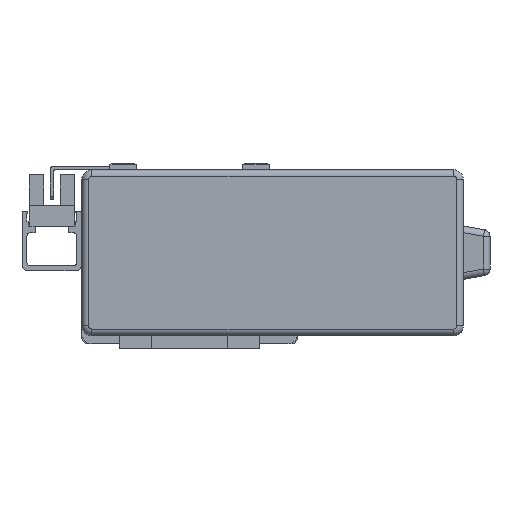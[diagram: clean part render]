
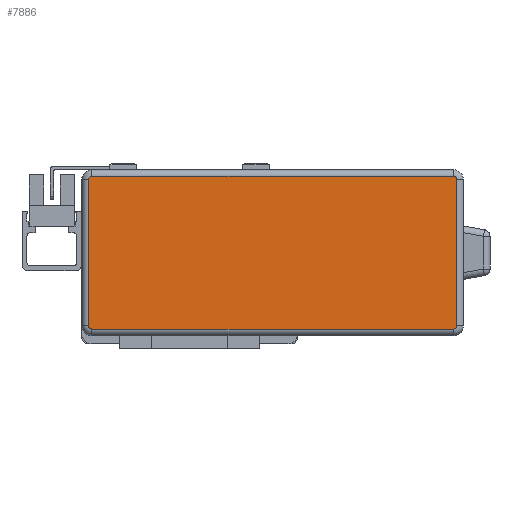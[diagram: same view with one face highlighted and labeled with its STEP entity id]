
A CAD part, left-side view. The second image highlights one B-rep face of the part: STEP entity #7886.
In plain terms, the highlighted planar face has unit normal (-1, 0, 0) as drawn and (0, 0, 1) by its records, which use the part's own axes.
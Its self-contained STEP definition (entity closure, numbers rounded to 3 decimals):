
#60 = DIRECTION ( 'NONE',  ( 0., 1., 0. ) ) ;
#329 = CARTESIAN_POINT ( 'NONE',  ( -55.5, 22., 40. ) ) ;
#679 = CARTESIAN_POINT ( 'NONE',  ( 54.5, -23., 40. ) ) ;
#751 = DIRECTION ( 'NONE',  ( -1., 0., 0. ) ) ;
#810 = VECTOR ( 'NONE', #2388, 1000. ) ;
#843 = ORIENTED_EDGE ( 'NONE', *, *, #21857, .T. ) ;
#1141 = EDGE_CURVE ( 'NONE', #10058, #25977, #4526, .T. ) ;
#1264 = VERTEX_POINT ( 'NONE', #329 ) ;
#1670 = CARTESIAN_POINT ( 'NONE',  ( 0., -23., 40. ) ) ;
#2032 = CARTESIAN_POINT ( 'NONE',  ( -54.5, -22., 40. ) ) ;
#2117 = LINE ( 'NONE', #14459, #8875 ) ;
#2388 = DIRECTION ( 'NONE',  ( -1., 0., 0. ) ) ;
#2506 = VERTEX_POINT ( 'NONE', #10891 ) ;
#2767 = CARTESIAN_POINT ( 'NONE',  ( 54.5, 23., 40. ) ) ;
#3574 = EDGE_CURVE ( 'NONE', #9112, #5896, #4401, .T. ) ;
#3730 = CARTESIAN_POINT ( 'NONE',  ( -54.5, -23., 40. ) ) ;
#4099 = DIRECTION ( 'NONE',  ( -1., 0., 0. ) ) ;
#4274 = AXIS2_PLACEMENT_3D ( 'NONE', #25462, #13084, #751 ) ;
#4401 = CIRCLE ( 'NONE', #4620, 1. ) ;
#4526 = CIRCLE ( 'NONE', #20808, 1. ) ;
#4575 = CIRCLE ( 'NONE', #17566, 1. ) ;
#4620 = AXIS2_PLACEMENT_3D ( 'NONE', #7308, #21744, #9393 ) ;
#4679 = CARTESIAN_POINT ( 'NONE',  ( 0., 0., 40. ) ) ;
#5129 = EDGE_CURVE ( 'NONE', #5896, #2506, #2117, .T. ) ;
#5896 = VERTEX_POINT ( 'NONE', #21542 ) ;
#6003 = CARTESIAN_POINT ( 'NONE',  ( -55.5, 0., 40. ) ) ;
#6442 = EDGE_CURVE ( 'NONE', #1264, #10058, #16030, .T. ) ;
#6641 = ORIENTED_EDGE ( 'NONE', *, *, #1141, .T. ) ;
#7308 = CARTESIAN_POINT ( 'NONE',  ( 54.5, -22., 40. ) ) ;
#7886 = ADVANCED_FACE ( 'NONE', ( #15302 ), #19113, .F. ) ;
#8071 = DIRECTION ( 'NONE',  ( 0., -1., 0. ) ) ;
#8875 = VECTOR ( 'NONE', #60, 1000. ) ;
#9112 = VERTEX_POINT ( 'NONE', #679 ) ;
#9393 = DIRECTION ( 'NONE',  ( -1., 0., 0. ) ) ;
#9535 = ORIENTED_EDGE ( 'NONE', *, *, #18501, .T. ) ;
#10058 = VERTEX_POINT ( 'NONE', #25460 ) ;
#10891 = CARTESIAN_POINT ( 'NONE',  ( 55.5, 22., 40. ) ) ;
#11606 = CARTESIAN_POINT ( 'NONE',  ( 54.5, 22., 40. ) ) ;
#11753 = LINE ( 'NONE', #12649, #810 ) ;
#11781 = EDGE_CURVE ( 'NONE', #15470, #1264, #18644, .T. ) ;
#11792 = ORIENTED_EDGE ( 'NONE', *, *, #3574, .T. ) ;
#12649 = CARTESIAN_POINT ( 'NONE',  ( 0., 23., 40. ) ) ;
#12975 = DIRECTION ( 'NONE',  ( -1., 0., 0. ) ) ;
#13084 = DIRECTION ( 'NONE',  ( 0., 0., 1. ) ) ;
#13664 = DIRECTION ( 'NONE',  ( -1., 0., 0. ) ) ;
#14459 = CARTESIAN_POINT ( 'NONE',  ( 55.5, 0., 40. ) ) ;
#15302 = FACE_OUTER_BOUND ( 'NONE', #17248, .T. ) ;
#15470 = VERTEX_POINT ( 'NONE', #20207 ) ;
#15684 = ORIENTED_EDGE ( 'NONE', *, *, #11781, .T. ) ;
#16030 = LINE ( 'NONE', #6003, #20845 ) ;
#16458 = DIRECTION ( 'NONE',  ( 0., 0., 1. ) ) ;
#17132 = AXIS2_PLACEMENT_3D ( 'NONE', #4679, #25355, #12975 ) ;
#17248 = EDGE_LOOP ( 'NONE', ( #843, #11792, #23429, #19869, #9535, #15684, #26652, #6641 ) ) ;
#17566 = AXIS2_PLACEMENT_3D ( 'NONE', #11606, #26031, #13664 ) ;
#18501 = EDGE_CURVE ( 'NONE', #21592, #15470, #11753, .T. ) ;
#18644 = CIRCLE ( 'NONE', #4274, 1. ) ;
#19113 = PLANE ( 'NONE',  #17132 ) ;
#19274 = VECTOR ( 'NONE', #22306, 1000. ) ;
#19869 = ORIENTED_EDGE ( 'NONE', *, *, #25239, .T. ) ;
#19918 = LINE ( 'NONE', #1670, #19274 ) ;
#20207 = CARTESIAN_POINT ( 'NONE',  ( -54.5, 23., 40. ) ) ;
#20808 = AXIS2_PLACEMENT_3D ( 'NONE', #2032, #16458, #4099 ) ;
#20845 = VECTOR ( 'NONE', #8071, 1000. ) ;
#21542 = CARTESIAN_POINT ( 'NONE',  ( 55.5, -22., 40. ) ) ;
#21592 = VERTEX_POINT ( 'NONE', #2767 ) ;
#21744 = DIRECTION ( 'NONE',  ( 0., 0., 1. ) ) ;
#21857 = EDGE_CURVE ( 'NONE', #25977, #9112, #19918, .T. ) ;
#22306 = DIRECTION ( 'NONE',  ( 1., 0., 0. ) ) ;
#23429 = ORIENTED_EDGE ( 'NONE', *, *, #5129, .T. ) ;
#25239 = EDGE_CURVE ( 'NONE', #2506, #21592, #4575, .T. ) ;
#25355 = DIRECTION ( 'NONE',  ( 0., 0., -1. ) ) ;
#25460 = CARTESIAN_POINT ( 'NONE',  ( -55.5, -22., 40. ) ) ;
#25462 = CARTESIAN_POINT ( 'NONE',  ( -54.5, 22., 40. ) ) ;
#25977 = VERTEX_POINT ( 'NONE', #3730 ) ;
#26031 = DIRECTION ( 'NONE',  ( 0., 0., 1. ) ) ;
#26652 = ORIENTED_EDGE ( 'NONE', *, *, #6442, .T. ) ;
